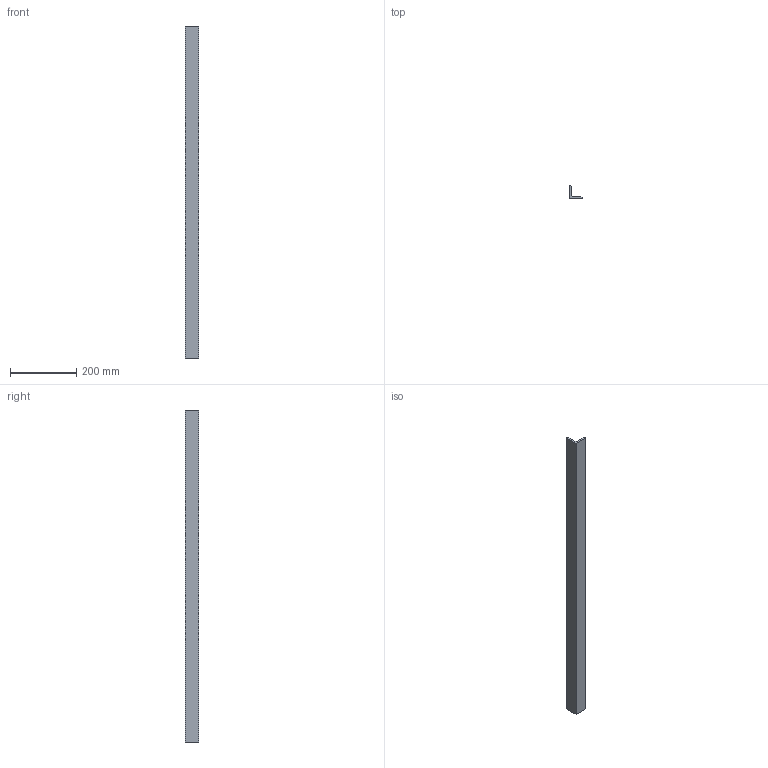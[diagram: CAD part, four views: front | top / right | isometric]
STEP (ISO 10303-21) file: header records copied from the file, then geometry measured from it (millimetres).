
FILE_DESCRIPTION (( 'STEP AP214' ), '1' );
FILE_NAME ('40x40x5.STEP', '2025-02-27T12:16:10', ( '' ), ( '' ), 'SwSTEP 2.0', 'SolidWorks 2023', '' );
FILE_SCHEMA (( 'AUTOMOTIVE_DESIGN' ));
Length unit declared in the file: millimetre
Products named in the file (1): 40x40x5
Bounding box: 40 x 40 x 1000 mm (x, y, z)
Volume: 375000 mm3; surface area: 154001.4 mm2
Topology: 1 solids, 1 shells, 11 faces, 27 edges, 18 vertices
Faces by surface type: plane 11
Entity records: 344 total; most frequent: CARTESIAN_POINT 57, ORIENTED_EDGE 54, DIRECTION 51, VECTOR 27, LINE 27, EDGE_CURVE 27, VERTEX_POINT 18, AXIS2_PLACEMENT_3D 12
